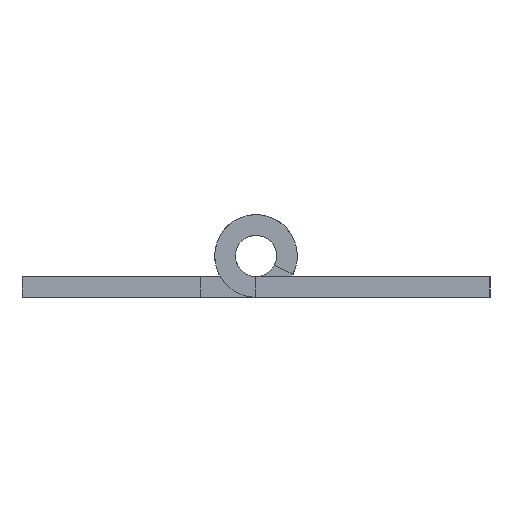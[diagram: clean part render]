
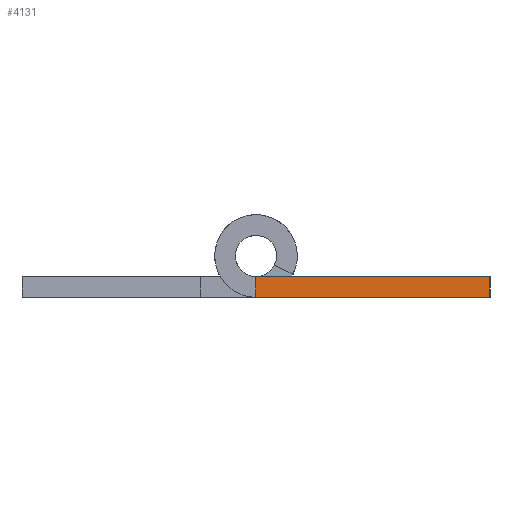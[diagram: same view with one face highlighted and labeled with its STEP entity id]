
A CAD part, left-side view. The second image highlights one B-rep face of the part: STEP entity #4131.
In plain terms, the highlighted planar face has unit normal (-1, 0, 0).
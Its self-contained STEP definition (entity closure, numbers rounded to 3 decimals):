
#995 = FACE_OUTER_BOUND ( 'NONE', #4094, .T. ) ;
#1017 = DIRECTION ( 'NONE',  ( 0., 0., 1. ) ) ;
#1018 = VECTOR ( 'NONE', #1017, 1000. ) ;
#1023 = AXIS2_PLACEMENT_3D ( 'NONE', #1053, #1052, #1051 ) ;
#1051 = DIRECTION ( 'NONE',  ( 0., 0., 1. ) ) ;
#1052 = DIRECTION ( 'NONE',  ( -1., 0., 0. ) ) ;
#1053 = CARTESIAN_POINT ( 'NONE',  ( 0., 0., -1.5 ) ) ;
#1062 = DIRECTION ( 'NONE',  ( 0., 0., -1. ) ) ;
#1063 = VECTOR ( 'NONE', #1062, 1000. ) ;
#1064 = CARTESIAN_POINT ( 'NONE',  ( 0., 17., 0. ) ) ;
#1065 = LINE ( 'NONE', #1064, #1063 ) ;
#1067 = PLANE ( 'NONE',  #1023 ) ;
#1148 = CARTESIAN_POINT ( 'NONE',  ( 0., 0., -1.5 ) ) ;
#1149 = LINE ( 'NONE', #1148, #1018 ) ;
#3022 = DIRECTION ( 'NONE',  ( 0., -1., 0. ) ) ;
#3023 = VECTOR ( 'NONE', #3022, 1000. ) ;
#3060 = CARTESIAN_POINT ( 'NONE',  ( 0., 17., 0. ) ) ;
#3080 = CARTESIAN_POINT ( 'NONE',  ( 0., 0., 0. ) ) ;
#3081 = LINE ( 'NONE', #3080, #3023 ) ;
#3084 = CARTESIAN_POINT ( 'NONE',  ( 0., 0., 0. ) ) ;
#3257 = VERTEX_POINT ( 'NONE', #5324 ) ;
#3272 = EDGE_CURVE ( 'NONE', #3257, #3283, #5305, .T. ) ;
#3283 = VERTEX_POINT ( 'NONE', #5346 ) ;
#3310 = VERTEX_POINT ( 'NONE', #3084 ) ;
#3325 = VERTEX_POINT ( 'NONE', #3060 ) ;
#3344 = EDGE_CURVE ( 'NONE', #3325, #3310, #3081, .T. ) ;
#4064 = ORIENTED_EDGE ( 'NONE', *, *, #4121, .T. ) ;
#4072 = ORIENTED_EDGE ( 'NONE', *, *, #4075, .T. ) ;
#4074 = ORIENTED_EDGE ( 'NONE', *, *, #3272, .T. ) ;
#4075 = EDGE_CURVE ( 'NONE', #3283, #3310, #1149, .T. ) ;
#4094 = EDGE_LOOP ( 'NONE', ( #4129, #4064, #4074, #4072 ) ) ;
#4121 = EDGE_CURVE ( 'NONE', #3325, #3257, #1065, .T. ) ;
#4129 = ORIENTED_EDGE ( 'NONE', *, *, #3344, .F. ) ;
#4131 = ADVANCED_FACE ( 'NONE', ( #995 ), #1067, .T. ) ;
#5303 = VECTOR ( 'NONE', #5365, 1000. ) ;
#5304 = CARTESIAN_POINT ( 'NONE',  ( 0., 0., -1.5 ) ) ;
#5305 = LINE ( 'NONE', #5304, #5303 ) ;
#5324 = CARTESIAN_POINT ( 'NONE',  ( 0., 17., -1.5 ) ) ;
#5346 = CARTESIAN_POINT ( 'NONE',  ( 0., 0., -1.5 ) ) ;
#5365 = DIRECTION ( 'NONE',  ( 0., -1., 0. ) ) ;
